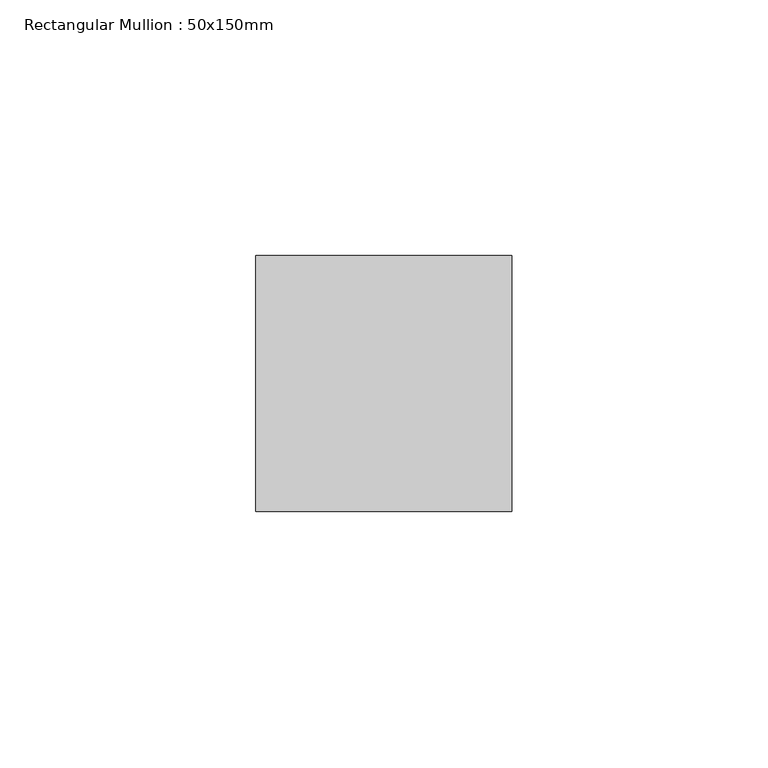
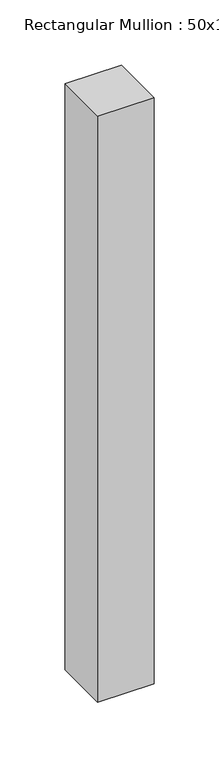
"""IFC4 building model written with IfcOpenShell, lengths in millimetres: member geometry, Rectangular Mullion : 50x150mm."""

from ifc_helpers import new_model, si_unit, frame, origin, place, context, project, spatial, polyline, outline, extrude, source, transform, mapped, element, save


def rectangular_mullion_50x150mm_f9c068ff(model_context):
    return source(origin(), model_context, "Body", "SweptSolid", [
        extrude(outline(polyline([(0.0, 25.0), (0.0, -25.0), (-50.0, -25.0), (-50.0, 25.0), (0.0, 25.0)])), frame((0.0, 0.0, -549.0), z_axis=(0.0, 0.0, 1.0), x_axis=(1.0, 0.0, 0.0)), (0.0, 0.0, 1.0), 549.0),
    ])


if __name__ == "__main__":
    model = new_model("IFC4")
    model_context = context("Model", 3, world=origin())
    ifc_project = project(units=[si_unit("LENGTHUNIT", "METRE", prefix="MILLI")], contexts=[model_context])
    site = spatial("IfcSite", under=ifc_project)
    building = spatial("IfcBuilding", under=site)
    placement = place(None, origin())
    rectangular_mullion_50x150mm_shape = rectangular_mullion_50x150mm_f9c068ff(model_context)
    element("IfcMember", 1, ObjectType="Rectangular Mullion : 50x150mm", at=placement, inside=building, context=model_context, shape_type="MappedRepresentation", body=[
        mapped(rectangular_mullion_50x150mm_shape, transform((0.0, 0.0, 0.0), x_axis=(1.0, 0.0, 0.0), y_axis=(0.0, 1.0, 0.0), z_axis=(0.0, 0.0, 1.0))),
    ])
    save(model, "model.ifc")
